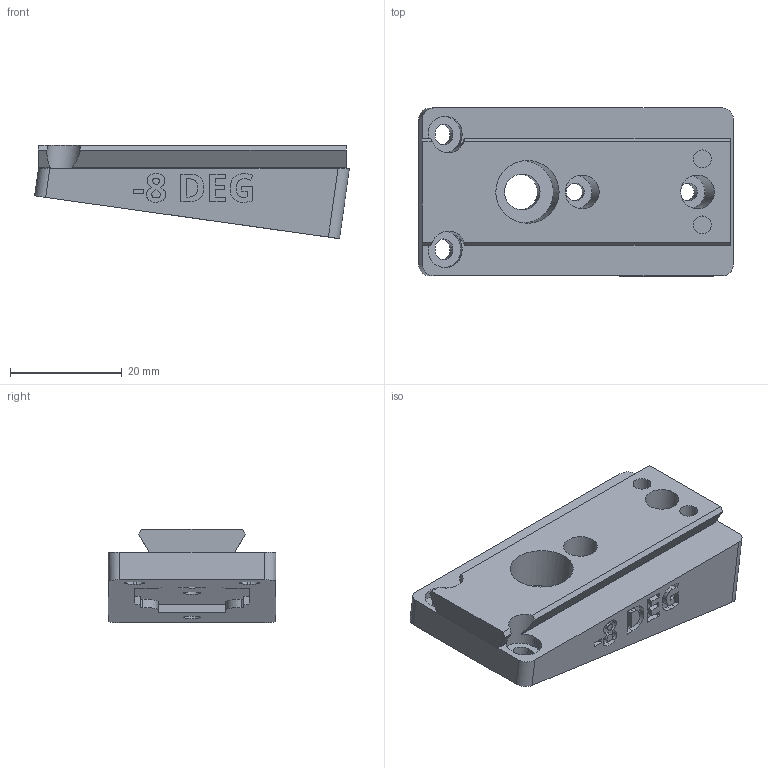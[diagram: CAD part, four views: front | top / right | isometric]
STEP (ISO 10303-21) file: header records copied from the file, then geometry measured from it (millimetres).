
FILE_DESCRIPTION(/* description */ ('STEP AP242 Edition 2','CAx-IF Rec.Pracs.---Representation and Presentation of Product Manufacturing Information (PMI)---4.0---2014-10-13','CAx-IF Rec.Pracs.---3D Tessellated Geometry---0.4---2014-09-14','2;1','CAx-IF Rec.Pracs.---User Defined Attributes---1.5---2016-08-15'),/* implementation_level */ '2;1');
FILE_NAME(/* name */ 'Camera Wedges - CAMERA MOUNTING WEDGE, NEG, -8 DEG',/* time_stamp */ '2026-07-08T20:37:11Z',/* author */ (''),/* organization */ (''),/* preprocessor_version */ 'ST-DEVELOPER v20',/* originating_system */ 'ONSHAPE BY PTC INC, 1.217',/* authorisation */ ' ');
FILE_SCHEMA (('AP242_MANAGED_MODEL_BASED_3D_ENGINEERING_MIM_LF { 1 0 10303 442 3 1 4 }'));
Length unit declared in the file: metre
Products named in the file (1): CAMERA MOUNTING WEDGE, NEG, -8 DEG
Bounding box: 56.23 x 30 x 16.68 mm (x, y, z)
Volume: 15775.4 mm3; surface area: 6799.9 mm2
Topology: 1 solids, 1 shells, 249 faces, 673 edges, 448 vertices
Faces by surface type: plane 123, bspline 78, cylinder 48
Full cylindrical faces by diameter (mm): 3.2 x4, 6 x2, 6.4 x1, 11.2 x1
Entity records: 8073 total; most frequent: CARTESIAN_POINT 2221, ORIENTED_EDGE 1330, DIRECTION 961, EDGE_CURVE 665, VERTEX_POINT 448, LINE 401, VECTOR 401, EDGE_LOOP 289
